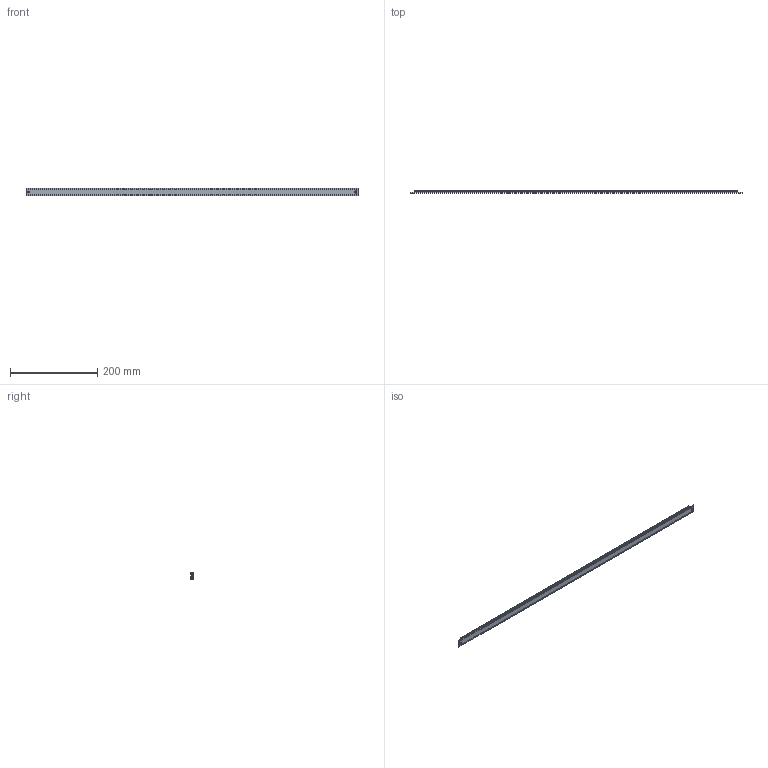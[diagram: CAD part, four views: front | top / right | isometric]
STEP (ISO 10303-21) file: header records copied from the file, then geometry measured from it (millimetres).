
FILE_DESCRIPTION (( 'STEP AP214' ), '1' );
FILE_NAME ('SAScale_exposed.ScaleLneght760.STEP', '2026-03-10T09:12:18', ( '' ), ( '' ), 'SwSTEP 2.0', 'SolidWorks 2024', '' );
FILE_SCHEMA (( 'AUTOMOTIVE_DESIGN' ));
Length unit declared in the file: millimetre
Products named in the file (1): SAScale_exposed.ScaleLneght760
Bounding box: 760 x 6 x 18 mm (x, y, z)
Volume: 74669.2 mm3; surface area: 64870.6 mm2
Topology: 2 solids, 2 shells, 52 faces, 141 edges, 94 vertices
Faces by surface type: plane 37, cylinder 15
Entity records: 2247 total; most frequent: CARTESIAN_POINT 288, ORIENTED_EDGE 282, DIRECTION 277, EDGE_CURVE 141, VECTOR 111, LINE 111, VERTEX_POINT 94, AXIS2_PLACEMENT_3D 83
